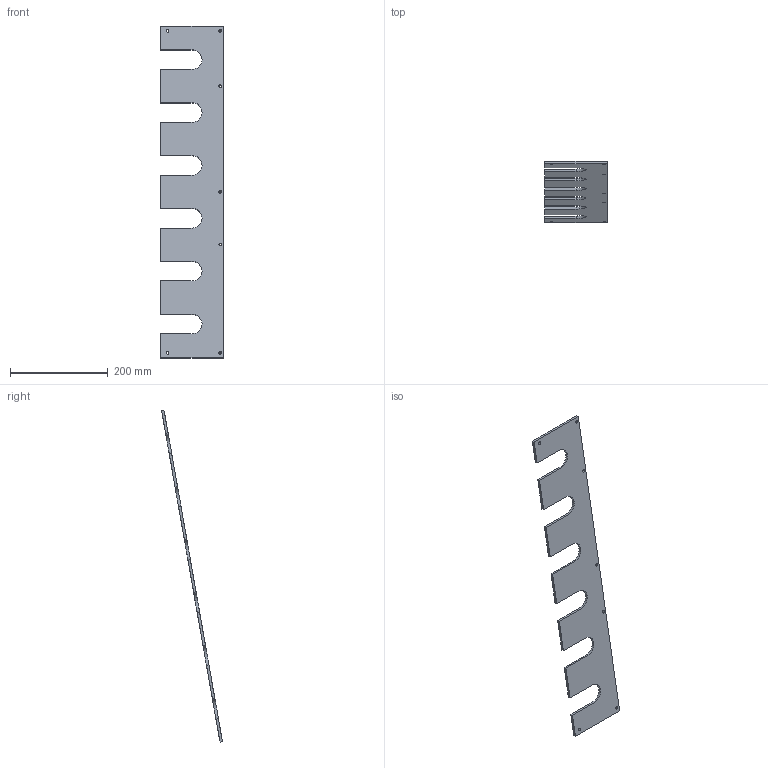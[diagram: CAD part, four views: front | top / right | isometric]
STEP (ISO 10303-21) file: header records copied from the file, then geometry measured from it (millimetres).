
FILE_DESCRIPTION(('golf model'),'2;1');
FILE_NAME('golf','',(''),(''),'golf_step_io','golf','');
FILE_SCHEMA(('AUTOMOTIVE_DESIGN { 1 0 10303 214 1 1 1 1 }'));
Length unit declared in the file: millimetre
Products named in the file (2): ASSEMBLY; atc_rack.fork_plate
Assembly tree (1 placements, depth 2):
  ASSEMBLY
    atc_rack.fork_plate
Bounding box: 128 x 124.74 x 680.39 mm (x, y, z)
Volume: 342244.6 mm3; surface area: 150224.7 mm2
Topology: 1 solids, 1 shells, 37 faces, 105 edges, 70 vertices
Faces by surface type: plane 24, cylinder 13
Full cylindrical faces by diameter (mm): 5.5 x7
Entity records: 1232 total; most frequent: CARTESIAN_POINT 207, DIRECTION 202, ORIENTED_EDGE 196, EDGE_CURVE 98, VECTOR 72, LINE 72, VERTEX_POINT 70, AXIS2_PLACEMENT_3D 65
